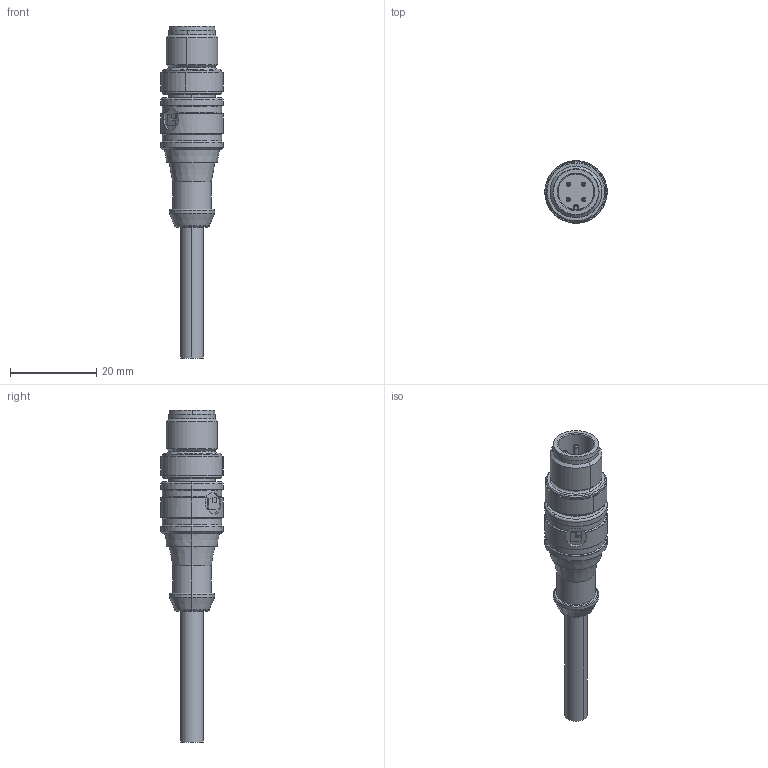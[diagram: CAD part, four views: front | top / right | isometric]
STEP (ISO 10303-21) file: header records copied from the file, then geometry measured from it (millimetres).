
FILE_DESCRIPTION(('Creo Elements/Direct Modeling STEP Export'),'2;1');
FILE_NAME('C:/Data/JobServerData/JobServer Files/9553f928-0928-4888-8c76-52991f600963/work/output/model.stp','2018-04-11T10:00:36',(''),(''),'PTC Creo Elements/Direct Modeling STEP processor for AP214 (Solid Model)','PTC Creo Elements/Direct Modeling 19.0B 21-Mar-2015 (C) Parametric Technology GmbH','');
FILE_SCHEMA(('AUTOMOTIVE_DESIGN { 1 0 10303 214 1 1 1 1 }'));
Length unit declared in the file: millimetre
Products named in the file (1): 1210_04
Bounding box: 14.5 x 14.5 x 77 mm (x, y, z)
Volume: 5542.6 mm3; surface area: 3033.3 mm2
Topology: 1 solids, 1 shells, 158 faces, 386 edges, 251 vertices
Faces by surface type: cylinder 55, plane 50, cone 28, torus 25
Entity records: 5606 total; most frequent: CARTESIAN_POINT 1508, ORIENTED_EDGE 772, DIRECTION 708, EDGE_CURVE 386, AXIS2_PLACEMENT_3D 278, VERTEX_POINT 251, EDGE_LOOP 179, FACE_OUTER_BOUND 158
